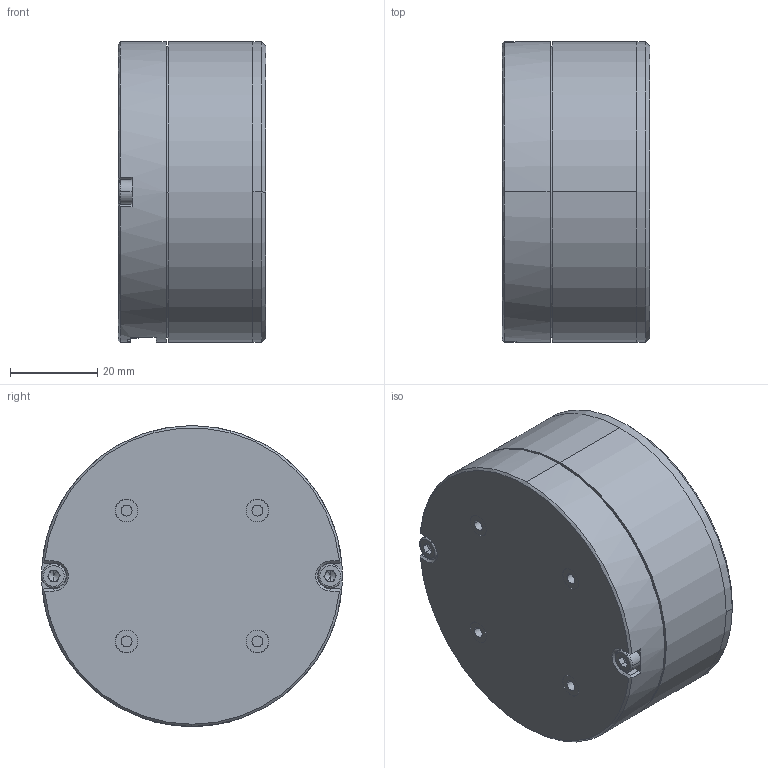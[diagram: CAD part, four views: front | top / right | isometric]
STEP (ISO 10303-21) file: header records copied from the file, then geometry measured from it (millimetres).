
FILE_DESCRIPTION (( 'STEP AP214' ), '1' );
FILE_NAME ('RMD-7015.step', '2024-01-23T08:25:55', ( '' ), ( '' ), 'SwSTEP 2.0', 'SolidWorks 2020', '' );
FILE_SCHEMA (( 'AUTOMOTIVE_DESIGN' ));
Length unit declared in the file: millimetre
Products named in the file (1): RMD-7015
Bounding box: 33.9 x 69 x 69 mm (x, y, z)
Volume: 32455.5 mm3; surface area: 43266.2 mm2
Topology: 6 solids, 6 shells, 298 faces, 774 edges, 500 vertices
Faces by surface type: cylinder 154, plane 98, cone 23, torus 13, bspline 10
Entity records: 9852 total; most frequent: CARTESIAN_POINT 2060, DIRECTION 1739, ORIENTED_EDGE 1540, EDGE_CURVE 770, AXIS2_PLACEMENT_3D 703, VERTEX_POINT 500, CIRCLE 414, EDGE_LOOP 376
